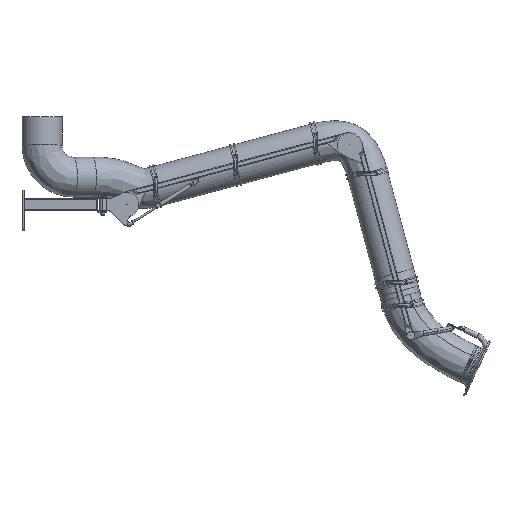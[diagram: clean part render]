
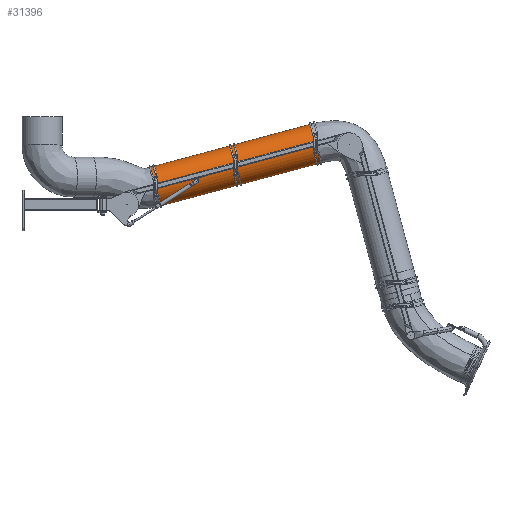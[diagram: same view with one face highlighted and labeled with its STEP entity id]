
A CAD part, top view. The second image highlights one B-rep face of the part: STEP entity #31396.
In plain terms, the highlighted free-form (B-spline) face has degree [3, 3] with [7, 6] control points.
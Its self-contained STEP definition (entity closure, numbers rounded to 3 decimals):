
#29905=CARTESIAN_POINT('',(943.326,304.527,-112.));
#29906=DIRECTION('',(-0.966,-0.259,0.));
#29907=DIRECTION('',(0.258,-0.964,0.055));
#29908=AXIS2_PLACEMENT_3D('',#29905,#29906,#29907);
#29913=CARTESIAN_POINT('',(969.169,208.079,
-106.529));
#29914=CARTESIAN_POINT('',(880.089,184.21,
-106.529));
#29915=CARTESIAN_POINT('',(701.929,136.473,
-106.529));
#29916=CARTESIAN_POINT('',(434.69,64.866,
-106.529));
#29917=CARTESIAN_POINT('',(256.53,17.128,
-106.529));
#29918=CARTESIAN_POINT('',(167.45,-6.741,
-106.529));
#29931=CARTESIAN_POINT('',(917.482,400.975,
-117.471));
#29932=CARTESIAN_POINT('',(828.403,377.106,
-117.471));
#29933=CARTESIAN_POINT('',(650.243,329.368,
-117.471));
#29934=CARTESIAN_POINT('',(383.004,257.762,
-117.471));
#29935=CARTESIAN_POINT('',(204.844,210.024,
-117.471));
#29936=CARTESIAN_POINT('',(115.764,186.155,
-117.471));
#30143=CARTESIAN_POINT('',(141.607,89.707,-112.));
#30144=DIRECTION('',(-0.966,-0.259,0.));
#30145=DIRECTION('',(0.258,-0.964,0.055));
#30146=AXIS2_PLACEMENT_3D('',#30143,#30144,#30145);
#30431=CARTESIAN_POINT('',(917.482,400.975,
-117.471));
#30432=CARTESIAN_POINT('',(969.169,208.079,
-106.529));
#30433=VERTEX_POINT('',#30431);
#30434=VERTEX_POINT('',#30432);
#30435=CARTESIAN_POINT('',(115.764,186.155,
-117.471));
#30436=CARTESIAN_POINT('',(167.45,-6.741,
-106.529));
#30437=VERTEX_POINT('',#30435);
#30438=VERTEX_POINT('',#30436);
#31344=CARTESIAN_POINT('',(985.241,212.234,
-112.81));
#31345=CARTESIAN_POINT('',(979.896,210.802,
-112.81));
#31346=CARTESIAN_POINT('',(707.312,137.763,
-112.81));
#31347=CARTESIAN_POINT('',(429.383,63.292,
-112.81));
#31348=CARTESIAN_POINT('',(156.799,-9.746,
-112.81));
#31349=CARTESIAN_POINT('',(151.454,-11.178,
-112.81));
#31350=CARTESIAN_POINT('',(985.37,211.753,
-51.272));
#31351=CARTESIAN_POINT('',(980.025,210.321,
-51.272));
#31352=CARTESIAN_POINT('',(707.441,137.282,
-51.272));
#31353=CARTESIAN_POINT('',(429.512,62.811,
-51.272));
#31354=CARTESIAN_POINT('',(156.928,-10.228,
-51.272));
#31355=CARTESIAN_POINT('',(151.583,-11.66,
-51.272));
#31356=CARTESIAN_POINT('',(973.848,254.754,
-8.783));
#31357=CARTESIAN_POINT('',(968.503,253.322,
-8.783));
#31358=CARTESIAN_POINT('',(695.919,180.283,
-8.783));
#31359=CARTESIAN_POINT('',(417.99,105.812,
-8.783));
#31360=CARTESIAN_POINT('',(145.405,32.774,
-8.783));
#31361=CARTESIAN_POINT('',(140.061,31.341,
-8.783));
#31362=CARTESIAN_POINT('',(957.944,314.108,
-12.15));
#31363=CARTESIAN_POINT('',(952.599,312.676,
-12.15));
#31364=CARTESIAN_POINT('',(680.015,239.637,
-12.15));
#31365=CARTESIAN_POINT('',(402.086,165.166,
-12.15));
#31366=CARTESIAN_POINT('',(129.502,92.127,
-12.15));
#31367=CARTESIAN_POINT('',(124.157,90.695,
-12.15));
#31368=CARTESIAN_POINT('',(942.04,373.462,
-15.517));
#31369=CARTESIAN_POINT('',(936.695,372.03,
-15.517));
#31370=CARTESIAN_POINT('',(664.111,298.991,
-15.517));
#31371=CARTESIAN_POINT('',(386.182,224.52,
-15.517));
#31372=CARTESIAN_POINT('',(113.598,151.481,
-15.517));
#31373=CARTESIAN_POINT('',(108.253,150.049,
-15.517));
#31374=CARTESIAN_POINT('',(931.788,411.722,
-62.615));
#31375=CARTESIAN_POINT('',(926.444,410.29,
-62.615));
#31376=CARTESIAN_POINT('',(653.859,337.251,
-62.615));
#31377=CARTESIAN_POINT('',(375.93,262.78,
-62.615));
#31378=CARTESIAN_POINT('',(103.346,189.741,
-62.615));
#31379=CARTESIAN_POINT('',(98.001,188.309,
-62.615));
#31380=CARTESIAN_POINT('',(933.657,404.749,
-123.73));
#31381=CARTESIAN_POINT('',(928.312,403.317,
-123.73));
#31382=CARTESIAN_POINT('',(655.728,330.278,
-123.73));
#31383=CARTESIAN_POINT('',(377.799,255.808,
-123.73));
#31384=CARTESIAN_POINT('',(105.214,182.769,
-123.73));
#31385=CARTESIAN_POINT('',(99.87,181.337,
-123.73));
#31386=(BOUNDED_SURFACE()B_SPLINE_SURFACE(3,3,((#31344,#31345,#31346,#31347,
#31348,#31349),(#31350,#31351,#31352,#31353,#31354,#31355),(#31356,#31357,
#31358,#31359,#31360,#31361),(#31362,#31363,#31364,#31365,#31366,#31367),
(#31368,#31369,#31370,#31371,#31372,#31373),(#31374,#31375,#31376,#31377,#31378,
#31379),(#31380,#31381,#31382,#31383,#31384,#31385)),.UNSPECIFIED.,.F.,.F.,.F.)B_SPLINE_SURFACE_WITH_KNOTS((4,3,4),(4,1,1,4),(0.,1.,2.),(-0.02,0.,1.,
1.02),.UNSPECIFIED.)GEOMETRIC_REPRESENTATION_ITEM()RATIONAL_B_SPLINE_SURFACE((
(1.187,1.187,1.187,1.187,
1.187,1.187),(0.938,0.938,
0.938,0.938,0.938,0.938),(
0.938,0.938,0.938,0.938,
0.938,0.938),(1.187,1.187,
1.187,1.187,1.187,1.187),(
0.938,0.938,0.938,0.938,
0.938,0.938),(0.938,0.938,
0.938,0.938,0.938,0.938),(
1.187,1.187,1.187,1.187,
1.187,1.187)))REPRESENTATION_ITEM('')SURFACE());
#31387=ORIENTED_EDGE('',*,*,#31331,.F.);
#31389=ORIENTED_EDGE('',*,*,#31388,.T.);
#31391=ORIENTED_EDGE('',*,*,#31390,.T.);
#31393=ORIENTED_EDGE('',*,*,#31392,.F.);
#31394=EDGE_LOOP('',(#31387,#31389,#31391,#31393));
#31395=FACE_OUTER_BOUND('',#31394,.F.);
#29909=CIRCLE('',#29908,100.);
#29919=B_SPLINE_CURVE_WITH_KNOTS('',3,(#29913,#29914,#29915,#29916,#29917,
#29918),.UNSPECIFIED.,.F.,.F.,(4,1,1,4),(0.,0.333,
0.667,1.),.UNSPECIFIED.);
#29937=B_SPLINE_CURVE_WITH_KNOTS('',3,(#29931,#29932,#29933,#29934,#29935,
#29936),.UNSPECIFIED.,.F.,.F.,(4,1,1,4),(0.,0.333,
0.667,1.),.UNSPECIFIED.);
#30147=CIRCLE('',#30146,100.);
#31331=EDGE_CURVE('',#30434,#30433,#29909,.T.);
#31388=EDGE_CURVE('',#30434,#30438,#29919,.T.);
#31390=EDGE_CURVE('',#30438,#30437,#30147,.T.);
#31392=EDGE_CURVE('',#30433,#30437,#29937,.T.);
#31396=ADVANCED_FACE('',(#31395),#31386,.T.);
